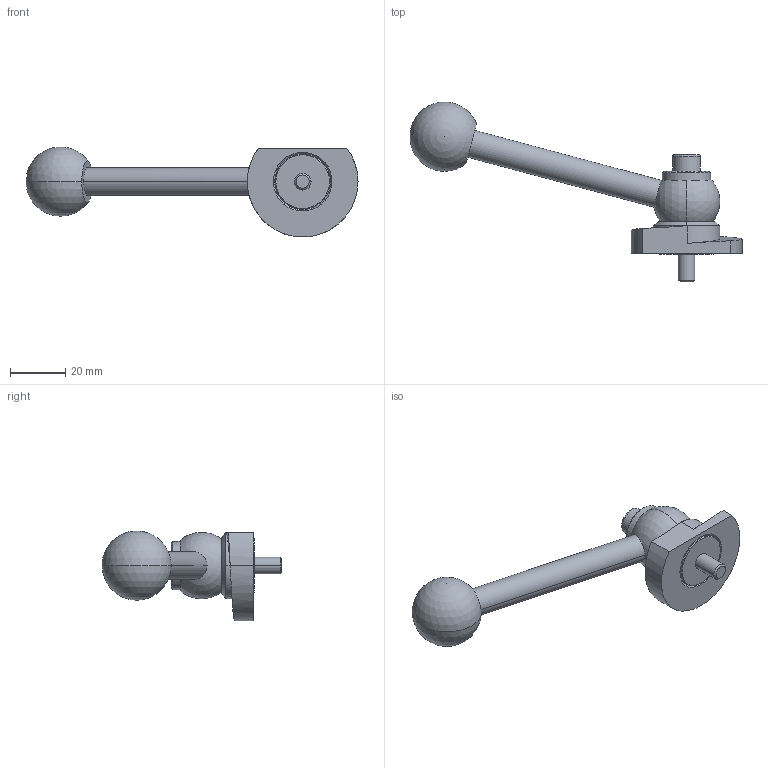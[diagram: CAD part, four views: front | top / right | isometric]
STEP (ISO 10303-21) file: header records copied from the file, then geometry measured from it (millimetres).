
FILE_DESCRIPTION (( 'STEP AP214' ), '1' );
FILE_NAME ('918.1-40-KVS-R-10.step', '2024-05-15T13:00:20', ( '' ), ( '' ), 'SwSTEP 2.0', 'SolidWorks 2022', '' );
FILE_SCHEMA (( 'AUTOMOTIVE_DESIGN' ));
Length unit declared in the file: millimetre
Products named in the file (1): 918.1-40-KVS-R-10
Bounding box: 119.95 x 64.99 x 32.5 mm (x, y, z)
Volume: 30032.9 mm3; surface area: 11024.6 mm2
Topology: 1 solids, 1 shells, 64 faces, 147 edges, 93 vertices
Faces by surface type: cylinder 22, plane 20, cone 14, sphere 4, torus 2, bspline 2
Entity records: 2045 total; most frequent: CARTESIAN_POINT 590, DIRECTION 321, ORIENTED_EDGE 274, EDGE_CURVE 137, AXIS2_PLACEMENT_3D 131, VERTEX_POINT 87, EDGE_LOOP 76, CIRCLE 68
